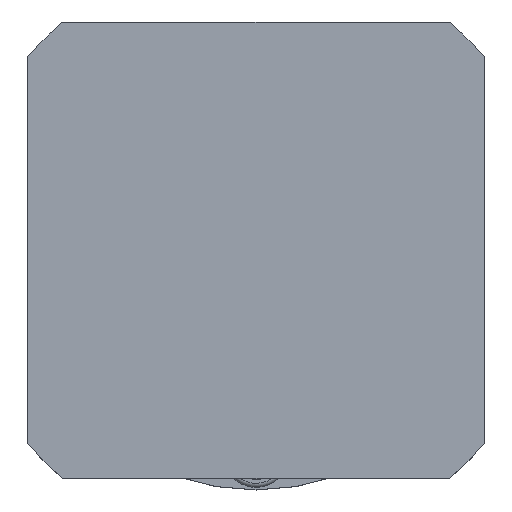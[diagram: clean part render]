
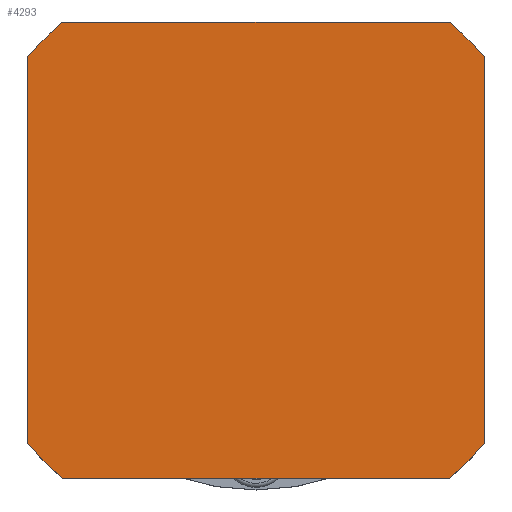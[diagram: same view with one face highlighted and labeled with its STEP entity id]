
A CAD part, top view. The second image highlights one B-rep face of the part: STEP entity #4293.
In plain terms, the highlighted planar face has unit normal (0, 0, 1).
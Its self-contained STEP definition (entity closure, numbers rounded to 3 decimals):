
#125 = CARTESIAN_POINT ( 'NONE',  ( -38.158, 45., 240. ) ) ;
#277 = CARTESIAN_POINT ( 'NONE',  ( -38.158, 45., 240. ) ) ;
#450 = VERTEX_POINT ( 'NONE', #16771 ) ;
#632 = ORIENTED_EDGE ( 'NONE', *, *, #9434, .T. ) ;
#649 = DIRECTION ( 'NONE',  ( 0., 1., 0. ) ) ;
#742 = AXIS2_PLACEMENT_3D ( 'NONE', #15126, #7235, #16437 ) ;
#976 = ORIENTED_EDGE ( 'NONE', *, *, #16027, .T. ) ;
#1618 = CARTESIAN_POINT ( 'NONE',  ( 45., 38.158, 240. ) ) ;
#1776 = EDGE_CURVE ( 'NONE', #10281, #8887, #7415, .T. ) ;
#2101 = CARTESIAN_POINT ( 'NONE',  ( -45., 38.158, 240. ) ) ;
#2338 = ORIENTED_EDGE ( 'NONE', *, *, #5075, .T. ) ;
#2668 = ORIENTED_EDGE ( 'NONE', *, *, #1776, .T. ) ;
#2865 = CARTESIAN_POINT ( 'NONE',  ( -45., 38.158, 240. ) ) ;
#3284 = PLANE ( 'NONE',  #13202 ) ;
#3307 = AXIS2_PLACEMENT_3D ( 'NONE', #4602, #13891, #5959 ) ;
#3824 = DIRECTION ( 'NONE',  ( 0., 0., 1. ) ) ;
#3854 = AXIS2_PLACEMENT_3D ( 'NONE', #4790, #14059, #6148 ) ;
#4066 = EDGE_CURVE ( 'NONE', #10507, #16769, #12703, .T. ) ;
#4205 = CARTESIAN_POINT ( 'NONE',  ( 45., -38.158, 240. ) ) ;
#4293 = ADVANCED_FACE ( 'NONE', ( #5386 ), #3284, .T. ) ;
#4334 = CARTESIAN_POINT ( 'NONE',  ( 38.158, -45., 240. ) ) ;
#4578 = EDGE_CURVE ( 'NONE', #7590, #10281, #12689, .T. ) ;
#4602 = CARTESIAN_POINT ( 'NONE',  ( 0., 0., 240. ) ) ;
#4790 = CARTESIAN_POINT ( 'NONE',  ( 0., 0., 240. ) ) ;
#5075 = EDGE_CURVE ( 'NONE', #16769, #450, #8734, .T. ) ;
#5191 = VECTOR ( 'NONE', #15447, 1000. ) ;
#5386 = FACE_OUTER_BOUND ( 'NONE', #8312, .T. ) ;
#5672 = ORIENTED_EDGE ( 'NONE', *, *, #4066, .T. ) ;
#5930 = EDGE_CURVE ( 'NONE', #13245, #7590, #7234, .T. ) ;
#5959 = DIRECTION ( 'NONE',  ( 0., 1., 0. ) ) ;
#6148 = DIRECTION ( 'NONE',  ( 0., 1., 0. ) ) ;
#7234 = CIRCLE ( 'NONE', #742, 59. ) ;
#7235 = DIRECTION ( 'NONE',  ( 0., 0., 1. ) ) ;
#7415 = CIRCLE ( 'NONE', #3307, 59. ) ;
#7590 = VERTEX_POINT ( 'NONE', #4205 ) ;
#8094 = DIRECTION ( 'NONE',  ( 1., 0., 0. ) ) ;
#8180 = EDGE_CURVE ( 'NONE', #8887, #8313, #14607, .T. ) ;
#8312 = EDGE_LOOP ( 'NONE', ( #10239, #17073, #2668, #14652, #976, #5672, #2338, #632 ) ) ;
#8313 = VERTEX_POINT ( 'NONE', #125 ) ;
#8644 = AXIS2_PLACEMENT_3D ( 'NONE', #11802, #3824, #13137 ) ;
#8660 = DIRECTION ( 'NONE',  ( 0., 0., 1. ) ) ;
#8734 = CIRCLE ( 'NONE', #3854, 59. ) ;
#8887 = VERTEX_POINT ( 'NONE', #12165 ) ;
#9434 = EDGE_CURVE ( 'NONE', #450, #13245, #13974, .T. ) ;
#9582 = CARTESIAN_POINT ( 'NONE',  ( -45., -38.158, 240. ) ) ;
#9641 = DIRECTION ( 'NONE',  ( -1., 0., 0. ) ) ;
#10239 = ORIENTED_EDGE ( 'NONE', *, *, #5930, .T. ) ;
#10281 = VERTEX_POINT ( 'NONE', #1618 ) ;
#10440 = VECTOR ( 'NONE', #8094, 1000. ) ;
#10507 = VERTEX_POINT ( 'NONE', #2101 ) ;
#10818 = DIRECTION ( 'NONE',  ( 0., -1., 0. ) ) ;
#11121 = VECTOR ( 'NONE', #9641, 1000. ) ;
#11497 = CARTESIAN_POINT ( 'NONE',  ( 45., -38.158, 240. ) ) ;
#11802 = CARTESIAN_POINT ( 'NONE',  ( 0., 0., 240. ) ) ;
#12165 = CARTESIAN_POINT ( 'NONE',  ( 38.158, 45., 240. ) ) ;
#12689 = LINE ( 'NONE', #11497, #5191 ) ;
#12703 = LINE ( 'NONE', #2865, #16152 ) ;
#13137 = DIRECTION ( 'NONE',  ( 0., 1., 0. ) ) ;
#13202 = AXIS2_PLACEMENT_3D ( 'NONE', #16526, #8660, #649 ) ;
#13245 = VERTEX_POINT ( 'NONE', #4334 ) ;
#13891 = DIRECTION ( 'NONE',  ( 0., 0., 1. ) ) ;
#13974 = LINE ( 'NONE', #15977, #10440 ) ;
#14059 = DIRECTION ( 'NONE',  ( 0., 0., 1. ) ) ;
#14607 = LINE ( 'NONE', #277, #11121 ) ;
#14652 = ORIENTED_EDGE ( 'NONE', *, *, #8180, .T. ) ;
#14964 = CIRCLE ( 'NONE', #8644, 59. ) ;
#15126 = CARTESIAN_POINT ( 'NONE',  ( 0., 0., 240. ) ) ;
#15447 = DIRECTION ( 'NONE',  ( 0., 1., 0. ) ) ;
#15977 = CARTESIAN_POINT ( 'NONE',  ( -38.158, -45., 240. ) ) ;
#16027 = EDGE_CURVE ( 'NONE', #8313, #10507, #14964, .T. ) ;
#16152 = VECTOR ( 'NONE', #10818, 1000. ) ;
#16437 = DIRECTION ( 'NONE',  ( 0., 1., 0. ) ) ;
#16526 = CARTESIAN_POINT ( 'NONE',  ( 0., 0., 240. ) ) ;
#16769 = VERTEX_POINT ( 'NONE', #9582 ) ;
#16771 = CARTESIAN_POINT ( 'NONE',  ( -38.158, -45., 240. ) ) ;
#17073 = ORIENTED_EDGE ( 'NONE', *, *, #4578, .T. ) ;
